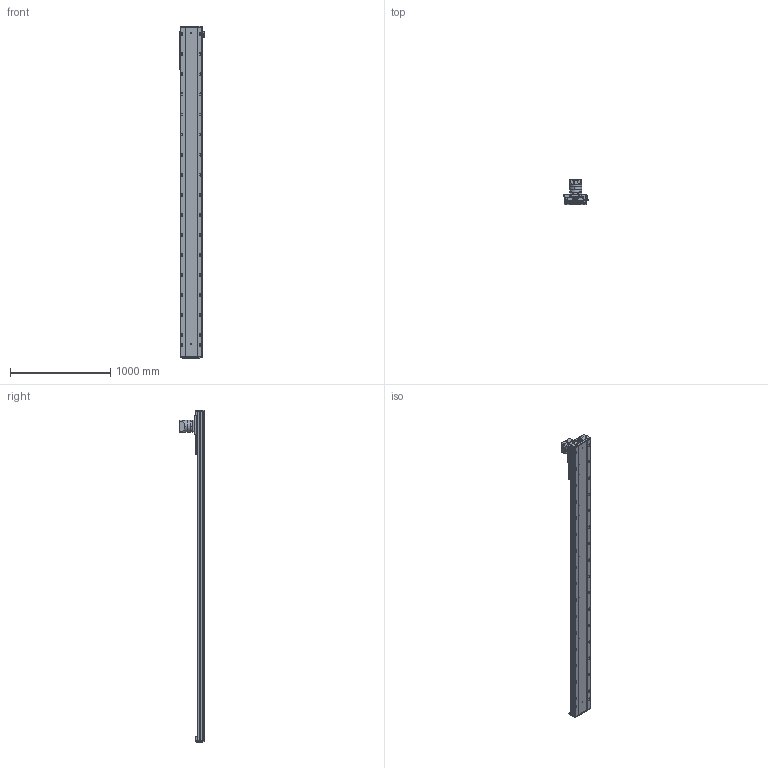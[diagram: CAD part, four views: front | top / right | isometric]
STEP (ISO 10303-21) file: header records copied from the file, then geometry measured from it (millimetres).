
FILE_DESCRIPTION (( 'STEP AP203' ), '1' );
FILE_NAME ('RY220-C-300-UK.SLDASM_2800.step', '2022-08-01T06:00:28', ( '' ), ( '' ), 'SwSTEP 2.0', 'SolidWorks 2016', '' );
FILE_SCHEMA (( 'CONFIG_CONTROL_DESIGN' ));
Length unit declared in the file: millimetre
Products named in the file (10): RY220菁釱MK-300_2800; 滅袉蝶輸ㄗG412隅秶ㄘ; RY140直线电机感应器674光电安装座; RY220喘沭俋离覜茼え; 覜茼ん674; RY220-齿条模组电机安装板; RY220喘沭賑輸; RY220喘沭綴裔啣; RY220-C-300-UK.SLDASM_2800; PF115L1-S2-22-58-110-145-M8
Assembly tree (12 placements, depth 2):
  RY220-C-300-UK.SLDASM_2800
    RY220菁釱MK-300_2800
    RY220喘沭賑輸
    RY220-齿条模组电机安装板
    PF115L1-S2-22-58-110-145-M8
    RY220喘沭綴裔啣  x2
    滅袉蝶輸ㄗG412隅秶ㄘ  x2
    RY140直线电机感应器674光电安装座
    覜茼ん674  x2
    RY220喘沭俋离覜茼え
Bounding box: 247 x 244.5 x 3309 mm (x, y, z)
Volume: 22079988.8 mm3; surface area: 4549672.3 mm2
Topology: 18 solids, 26 shells, 2396 faces, 6461 edges, 4027 vertices
Faces by surface type: cylinder 1173, plane 751, cone 310, bspline 162
Entity records: 76277 total; most frequent: CARTESIAN_POINT 20671, DIRECTION 11519, ORIENTED_EDGE 11202, EDGE_CURVE 5601, AXIS2_PLACEMENT_3D 4423, VERTEX_POINT 3653, EDGE_LOOP 2818, LINE 2673
